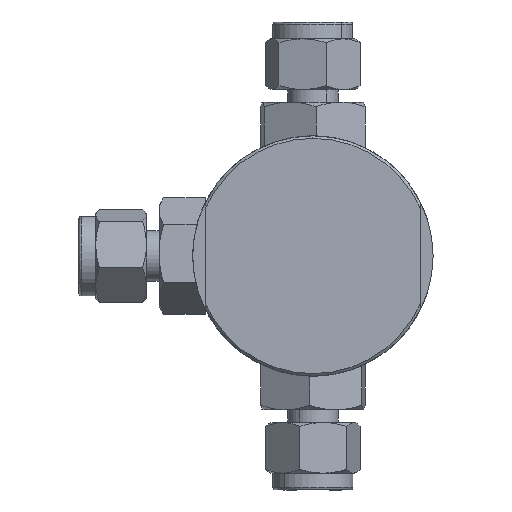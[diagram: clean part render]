
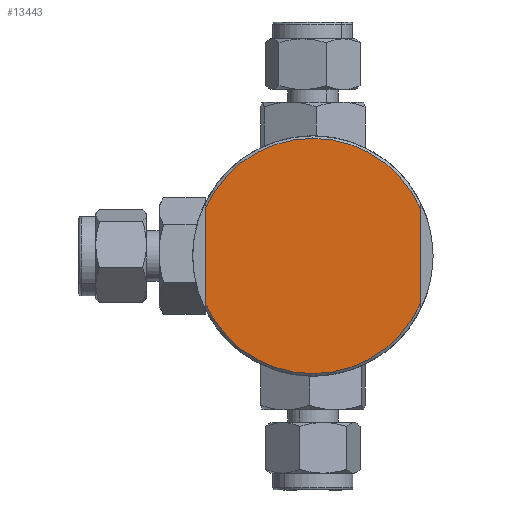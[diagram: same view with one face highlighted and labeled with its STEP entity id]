
A CAD part, front view. The second image highlights one B-rep face of the part: STEP entity #13443.
In plain terms, the highlighted planar face has unit normal (0, -1, 0).
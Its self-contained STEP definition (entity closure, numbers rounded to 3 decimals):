
#163 = AXIS2_PLACEMENT_3D ( 'NONE', #11872, #20522, #8446 ) ;
#182 = DIRECTION ( 'NONE',  ( 0., 0., 1. ) ) ;
#1083 = LINE ( 'NONE', #3412, #19175 ) ;
#3412 = CARTESIAN_POINT ( 'NONE',  ( 23.954, -5.271, -14.015 ) ) ;
#3873 = CIRCLE ( 'NONE', #5894, 13.95 ) ;
#4452 = EDGE_CURVE ( 'NONE', #12578, #20972, #19693, .T. ) ;
#4703 = ORIENTED_EDGE ( 'NONE', *, *, #4452, .T. ) ;
#4937 = AXIS2_PLACEMENT_3D ( 'NONE', #7095, #7027, #7239 ) ;
#5326 = DIRECTION ( 'NONE',  ( 0., 0., -1. ) ) ;
#5450 = CIRCLE ( 'NONE', #4937, 13.95 ) ;
#5894 = AXIS2_PLACEMENT_3D ( 'NONE', #13761, #19426, #19502 ) ;
#6793 = CARTESIAN_POINT ( 'NONE',  ( 36.704, -5.271, 0. ) ) ;
#7027 = DIRECTION ( 'NONE',  ( 0., -1., 0. ) ) ;
#7095 = CARTESIAN_POINT ( 'NONE',  ( 36.704, -5.271, 0. ) ) ;
#7239 = DIRECTION ( 'NONE',  ( 0., 0., -1. ) ) ;
#8283 = VERTEX_POINT ( 'NONE', #21963 ) ;
#8446 = DIRECTION ( 'NONE',  ( 0., 0., -1. ) ) ;
#8502 = ORIENTED_EDGE ( 'NONE', *, *, #12267, .F. ) ;
#11227 = EDGE_CURVE ( 'NONE', #8283, #20972, #12599, .T. ) ;
#11829 = PLANE ( 'NONE',  #16838 ) ;
#11872 = CARTESIAN_POINT ( 'NONE',  ( 36.704, -5.271, 0. ) ) ;
#11878 = EDGE_LOOP ( 'NONE', ( #8502, #4703, #16257, #14758, #17565 ) ) ;
#12256 = EDGE_CURVE ( 'NONE', #12275, #13533, #5450, .T. ) ;
#12267 = EDGE_CURVE ( 'NONE', #12578, #13533, #1083, .T. ) ;
#12275 = VERTEX_POINT ( 'NONE', #19260 ) ;
#12578 = VERTEX_POINT ( 'NONE', #17004 ) ;
#12599 = LINE ( 'NONE', #15813, #16990 ) ;
#13443 = ADVANCED_FACE ( 'NONE', ( #16653 ), #11829, .T. ) ;
#13533 = VERTEX_POINT ( 'NONE', #16381 ) ;
#13761 = CARTESIAN_POINT ( 'NONE',  ( 36.704, -5.271, 0. ) ) ;
#14758 = ORIENTED_EDGE ( 'NONE', *, *, #20942, .T. ) ;
#15518 = CARTESIAN_POINT ( 'NONE',  ( 49.454, -5.271, -5.66 ) ) ;
#15813 = CARTESIAN_POINT ( 'NONE',  ( 49.454, -5.271, -14.015 ) ) ;
#16257 = ORIENTED_EDGE ( 'NONE', *, *, #11227, .F. ) ;
#16381 = CARTESIAN_POINT ( 'NONE',  ( 23.954, -5.271, 5.66 ) ) ;
#16653 = FACE_OUTER_BOUND ( 'NONE', #11878, .T. ) ;
#16838 = AXIS2_PLACEMENT_3D ( 'NONE', #6793, #17342, #17483 ) ;
#16990 = VECTOR ( 'NONE', #5326, 1000. ) ;
#17004 = CARTESIAN_POINT ( 'NONE',  ( 23.954, -5.271, -5.66 ) ) ;
#17342 = DIRECTION ( 'NONE',  ( 0., -1., 0. ) ) ;
#17483 = DIRECTION ( 'NONE',  ( 0., 0., -1. ) ) ;
#17565 = ORIENTED_EDGE ( 'NONE', *, *, #12256, .T. ) ;
#19175 = VECTOR ( 'NONE', #182, 1000. ) ;
#19260 = CARTESIAN_POINT ( 'NONE',  ( 36.704, -5.271, 13.95 ) ) ;
#19426 = DIRECTION ( 'NONE',  ( 0., -1., 0. ) ) ;
#19502 = DIRECTION ( 'NONE',  ( 0., 0., -1. ) ) ;
#19693 = CIRCLE ( 'NONE', #163, 13.95 ) ;
#20522 = DIRECTION ( 'NONE',  ( 0., -1., 0. ) ) ;
#20942 = EDGE_CURVE ( 'NONE', #8283, #12275, #3873, .T. ) ;
#20972 = VERTEX_POINT ( 'NONE', #15518 ) ;
#21963 = CARTESIAN_POINT ( 'NONE',  ( 49.454, -5.271, 5.66 ) ) ;
